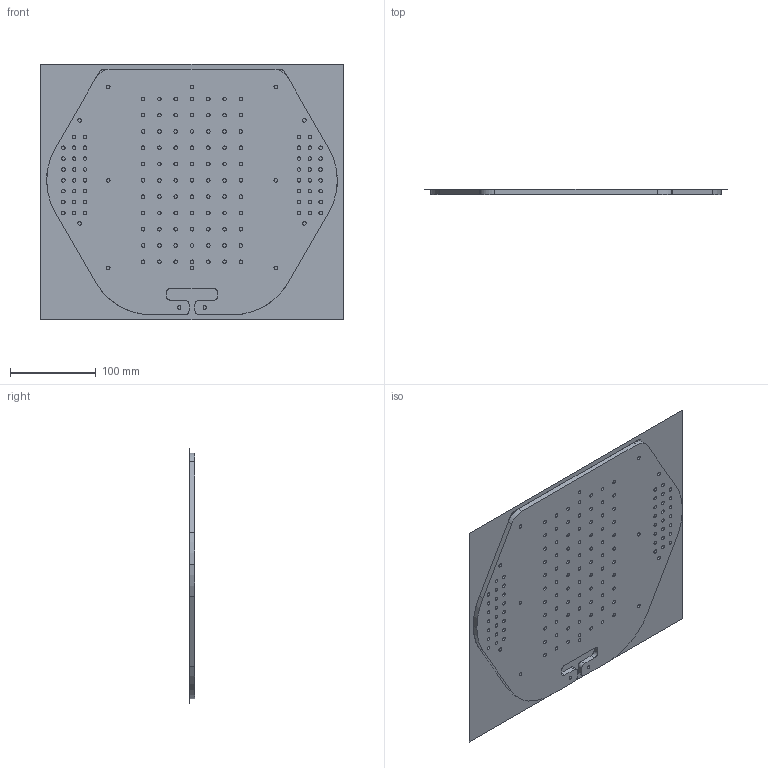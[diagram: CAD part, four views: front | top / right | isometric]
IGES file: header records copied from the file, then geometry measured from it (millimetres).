
Start section:  PTC IGES file: disk_03.igs
Global section: file name: disk_03.igs; native system: Creo Elements/Pro by Parametric Technology Corporation; preprocessor: 2010480; author: asus; organization: Unknown; date: 20121101.191019; units: millimetre
Bounding box: 353.6 x 6 x 298.76 mm (x, y, z)
Volume: 457149.4 mm3; surface area: 428246 mm2
Topology: 1 solids, 2 shells, 310 faces, 1550 edges, 1558 vertices
Faces by surface type: revolution 292, bspline 18
